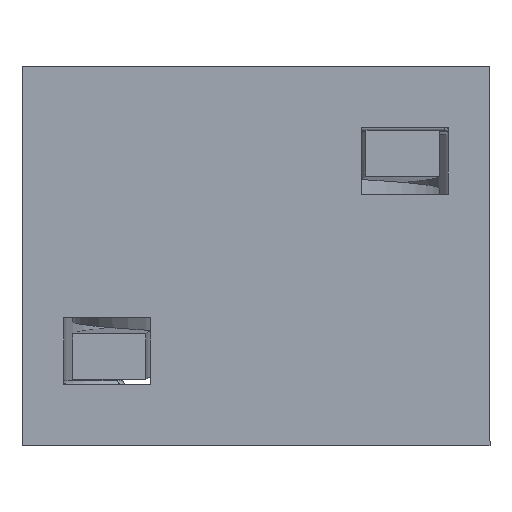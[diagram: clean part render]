
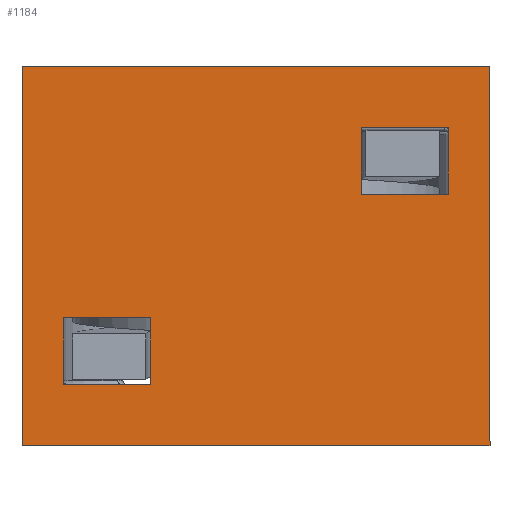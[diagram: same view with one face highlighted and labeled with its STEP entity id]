
A CAD part, front view. The second image highlights one B-rep face of the part: STEP entity #1184.
In plain terms, the highlighted planar face has unit normal (0, -1, 0).
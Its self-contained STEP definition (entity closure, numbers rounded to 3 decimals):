
#66 = VECTOR ( 'NONE', #2610, 1000. ) ;
#88 = FACE_BOUND ( 'NONE', #1845, .T. ) ;
#201 = ORIENTED_EDGE ( 'NONE', *, *, #1922, .T. ) ;
#207 = EDGE_LOOP ( 'NONE', ( #872, #221, #2669, #685 ) ) ;
#221 = ORIENTED_EDGE ( 'NONE', *, *, #2537, .F. ) ;
#246 = VERTEX_POINT ( 'NONE', #2697 ) ;
#274 = DIRECTION ( 'NONE',  ( 0., 0., -1. ) ) ;
#302 = LINE ( 'NONE', #2096, #3472 ) ;
#416 = EDGE_CURVE ( 'NONE', #1648, #1011, #444, .T. ) ;
#431 = CARTESIAN_POINT ( 'NONE',  ( 23.262, 0., -3.365 ) ) ;
#437 = VECTOR ( 'NONE', #3415, 1000. ) ;
#444 = LINE ( 'NONE', #2478, #1248 ) ;
#465 = AXIS2_PLACEMENT_3D ( 'NONE', #1508, #2765, #274 ) ;
#486 = CARTESIAN_POINT ( 'NONE',  ( 7.015, 0., -13.737 ) ) ;
#536 = VECTOR ( 'NONE', #3614, 1000. ) ;
#550 = CARTESIAN_POINT ( 'NONE',  ( 7.015, 0., -13.737 ) ) ;
#639 = CARTESIAN_POINT ( 'NONE',  ( 0., 0., -20.727 ) ) ;
#645 = LINE ( 'NONE', #2939, #1368 ) ;
#649 = CARTESIAN_POINT ( 'NONE',  ( 25.527, 0., 0. ) ) ;
#685 = ORIENTED_EDGE ( 'NONE', *, *, #2568, .F. ) ;
#747 = LINE ( 'NONE', #1992, #2290 ) ;
#753 = LINE ( 'NONE', #801, #3525 ) ;
#801 = CARTESIAN_POINT ( 'NONE',  ( 0., 0., 0. ) ) ;
#810 = CARTESIAN_POINT ( 'NONE',  ( 7.015, 0., -17.362 ) ) ;
#811 = VERTEX_POINT ( 'NONE', #2620 ) ;
#852 = CARTESIAN_POINT ( 'NONE',  ( 23.262, 0., -6.99 ) ) ;
#872 = ORIENTED_EDGE ( 'NONE', *, *, #1464, .F. ) ;
#878 = LINE ( 'NONE', #1350, #66 ) ;
#901 = CARTESIAN_POINT ( 'NONE',  ( 18.512, 0., -3.365 ) ) ;
#915 = ORIENTED_EDGE ( 'NONE', *, *, #3312, .T. ) ;
#962 = ORIENTED_EDGE ( 'NONE', *, *, #416, .T. ) ;
#987 = FACE_BOUND ( 'NONE', #1555, .T. ) ;
#1011 = VERTEX_POINT ( 'NONE', #2714 ) ;
#1156 = VERTEX_POINT ( 'NONE', #901 ) ;
#1184 = ADVANCED_FACE ( 'NONE', ( #2350, #987, #88 ), #2519, .T. ) ;
#1248 = VECTOR ( 'NONE', #2161, 1000. ) ;
#1347 = LINE ( 'NONE', #2699, #536 ) ;
#1350 = CARTESIAN_POINT ( 'NONE',  ( 18.512, 0., -6.99 ) ) ;
#1368 = VECTOR ( 'NONE', #1393, 1000. ) ;
#1393 = DIRECTION ( 'NONE',  ( 0., 0., 1. ) ) ;
#1444 = VECTOR ( 'NONE', #3903, 1000. ) ;
#1459 = ORIENTED_EDGE ( 'NONE', *, *, #1602, .T. ) ;
#1464 = EDGE_CURVE ( 'NONE', #2234, #2471, #753, .T. ) ;
#1490 = DIRECTION ( 'NONE',  ( -1., 0., 0. ) ) ;
#1508 = CARTESIAN_POINT ( 'NONE',  ( 0., 0., 0. ) ) ;
#1549 = ORIENTED_EDGE ( 'NONE', *, *, #2516, .T. ) ;
#1555 = EDGE_LOOP ( 'NONE', ( #1459, #3650, #1739, #1549 ) ) ;
#1602 = EDGE_CURVE ( 'NONE', #3753, #2539, #302, .T. ) ;
#1648 = VERTEX_POINT ( 'NONE', #431 ) ;
#1668 = LINE ( 'NONE', #852, #2392 ) ;
#1727 = CARTESIAN_POINT ( 'NONE',  ( 23.262, 0., -3.365 ) ) ;
#1739 = ORIENTED_EDGE ( 'NONE', *, *, #1771, .T. ) ;
#1771 = EDGE_CURVE ( 'NONE', #246, #3257, #747, .T. ) ;
#1783 = CARTESIAN_POINT ( 'NONE',  ( 0., 0., 0. ) ) ;
#1806 = EDGE_CURVE ( 'NONE', #2539, #246, #645, .T. ) ;
#1845 = EDGE_LOOP ( 'NONE', ( #915, #962, #3240, #201 ) ) ;
#1922 = EDGE_CURVE ( 'NONE', #811, #1156, #878, .T. ) ;
#1992 = CARTESIAN_POINT ( 'NONE',  ( 2.265, 0., -13.737 ) ) ;
#2043 = DIRECTION ( 'NONE',  ( 0., 0., 1. ) ) ;
#2072 = VECTOR ( 'NONE', #3929, 1000. ) ;
#2096 = CARTESIAN_POINT ( 'NONE',  ( 2.265, 0., -17.362 ) ) ;
#2161 = DIRECTION ( 'NONE',  ( 0., 0., -1. ) ) ;
#2234 = VERTEX_POINT ( 'NONE', #639 ) ;
#2290 = VECTOR ( 'NONE', #2315, 1000. ) ;
#2315 = DIRECTION ( 'NONE',  ( 1., 0., 0. ) ) ;
#2350 = FACE_OUTER_BOUND ( 'NONE', #207, .T. ) ;
#2382 = DIRECTION ( 'NONE',  ( -1., 0., 0. ) ) ;
#2392 = VECTOR ( 'NONE', #2382, 1000. ) ;
#2471 = VERTEX_POINT ( 'NONE', #3209 ) ;
#2478 = CARTESIAN_POINT ( 'NONE',  ( 23.262, 0., -6.99 ) ) ;
#2516 = EDGE_CURVE ( 'NONE', #3257, #3753, #3792, .T. ) ;
#2519 = PLANE ( 'NONE',  #465 ) ;
#2537 = EDGE_CURVE ( 'NONE', #3637, #2234, #1347, .T. ) ;
#2539 = VERTEX_POINT ( 'NONE', #3310 ) ;
#2568 = EDGE_CURVE ( 'NONE', #2471, #2761, #2898, .T. ) ;
#2610 = DIRECTION ( 'NONE',  ( 0., 0., 1. ) ) ;
#2620 = CARTESIAN_POINT ( 'NONE',  ( 18.512, 0., -6.99 ) ) ;
#2669 = ORIENTED_EDGE ( 'NONE', *, *, #2766, .F. ) ;
#2681 = LINE ( 'NONE', #1727, #3298 ) ;
#2697 = CARTESIAN_POINT ( 'NONE',  ( 2.265, 0., -13.737 ) ) ;
#2699 = CARTESIAN_POINT ( 'NONE',  ( 0., 0., -20.727 ) ) ;
#2714 = CARTESIAN_POINT ( 'NONE',  ( 23.262, 0., -6.99 ) ) ;
#2761 = VERTEX_POINT ( 'NONE', #3123 ) ;
#2765 = DIRECTION ( 'NONE',  ( 0., -1., 0. ) ) ;
#2766 = EDGE_CURVE ( 'NONE', #2761, #3637, #3688, .T. ) ;
#2898 = LINE ( 'NONE', #1783, #2072 ) ;
#2939 = CARTESIAN_POINT ( 'NONE',  ( 2.265, 0., -13.737 ) ) ;
#3123 = CARTESIAN_POINT ( 'NONE',  ( 25.527, 0., 0. ) ) ;
#3209 = CARTESIAN_POINT ( 'NONE',  ( 0., 0., 0. ) ) ;
#3240 = ORIENTED_EDGE ( 'NONE', *, *, #3361, .T. ) ;
#3257 = VERTEX_POINT ( 'NONE', #486 ) ;
#3298 = VECTOR ( 'NONE', #3575, 1000. ) ;
#3310 = CARTESIAN_POINT ( 'NONE',  ( 2.265, 0., -17.362 ) ) ;
#3312 = EDGE_CURVE ( 'NONE', #1156, #1648, #2681, .T. ) ;
#3361 = EDGE_CURVE ( 'NONE', #1011, #811, #1668, .T. ) ;
#3415 = DIRECTION ( 'NONE',  ( 0., 0., -1. ) ) ;
#3472 = VECTOR ( 'NONE', #1490, 1000. ) ;
#3525 = VECTOR ( 'NONE', #2043, 1000. ) ;
#3575 = DIRECTION ( 'NONE',  ( 1., 0., 0. ) ) ;
#3614 = DIRECTION ( 'NONE',  ( -1., 0., 0. ) ) ;
#3637 = VERTEX_POINT ( 'NONE', #3964 ) ;
#3650 = ORIENTED_EDGE ( 'NONE', *, *, #1806, .T. ) ;
#3688 = LINE ( 'NONE', #649, #437 ) ;
#3753 = VERTEX_POINT ( 'NONE', #810 ) ;
#3792 = LINE ( 'NONE', #550, #1444 ) ;
#3903 = DIRECTION ( 'NONE',  ( 0., 0., -1. ) ) ;
#3929 = DIRECTION ( 'NONE',  ( 1., 0., 0. ) ) ;
#3964 = CARTESIAN_POINT ( 'NONE',  ( 25.527, 0., -20.727 ) ) ;
